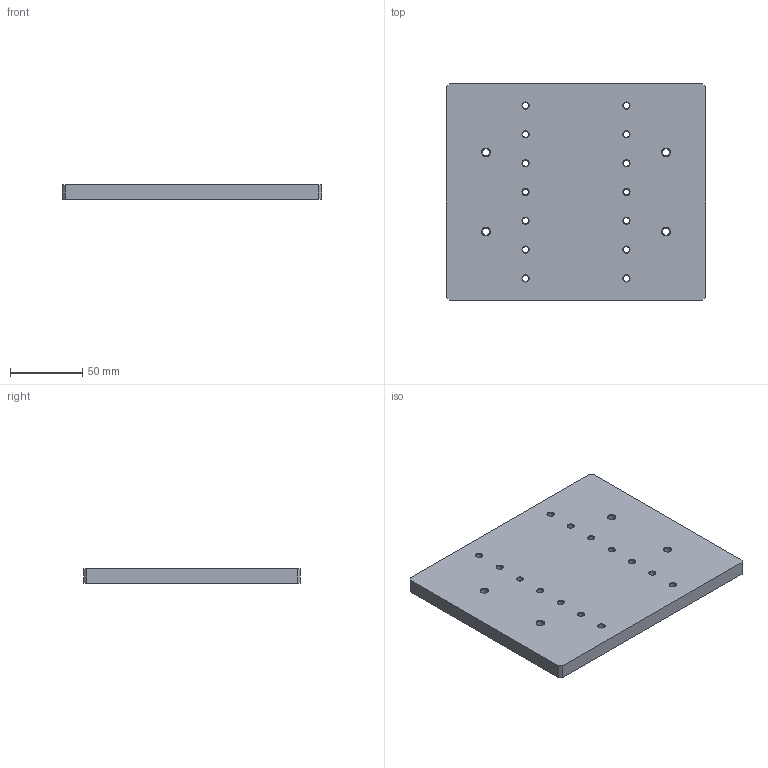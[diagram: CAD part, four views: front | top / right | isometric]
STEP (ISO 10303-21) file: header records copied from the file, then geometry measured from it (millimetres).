
FILE_DESCRIPTION(/* description */ (''),/* implementation_level */ '2;1');
FILE_NAME(/* name */ '底板.stp',/* time_stamp */ '2026-09-16T09:31:01+08:00',/* author */ (''),/* organization */ (''),/* preprocessor_version */ 'ST-DEVELOPER v20',/* originating_system */ 'SIEMENS PLM Software NX2312.1700',/* authorisation */ '');
FILE_SCHEMA (('AUTOMOTIVE_DESIGN { 1 0 10303 214 3 1 1 1 }'));
Length unit declared in the file: millimetre
Products named in the file (1): 底板
Bounding box: 180 x 150 x 10 mm (x, y, z)
Volume: 267146.8 mm3; surface area: 62352.8 mm2
Topology: 1 solids, 1 shells, 64 faces, 186 edges, 124 vertices
Faces by surface type: cone 36, cylinder 18, plane 10
Full cylindrical faces by diameter (mm): 4.2 x14, 5 x4
Entity records: 1644 total; most frequent: DIRECTION 298, CARTESIAN_POINT 249, ORIENTED_EDGE 192, EDGE_LOOP 154, FACE_BOUND 146, AXIS2_PLACEMENT_3D 137, EDGE_CURVE 96, VERTEX_POINT 88
